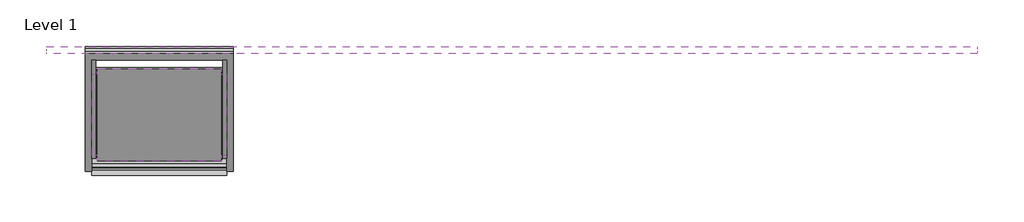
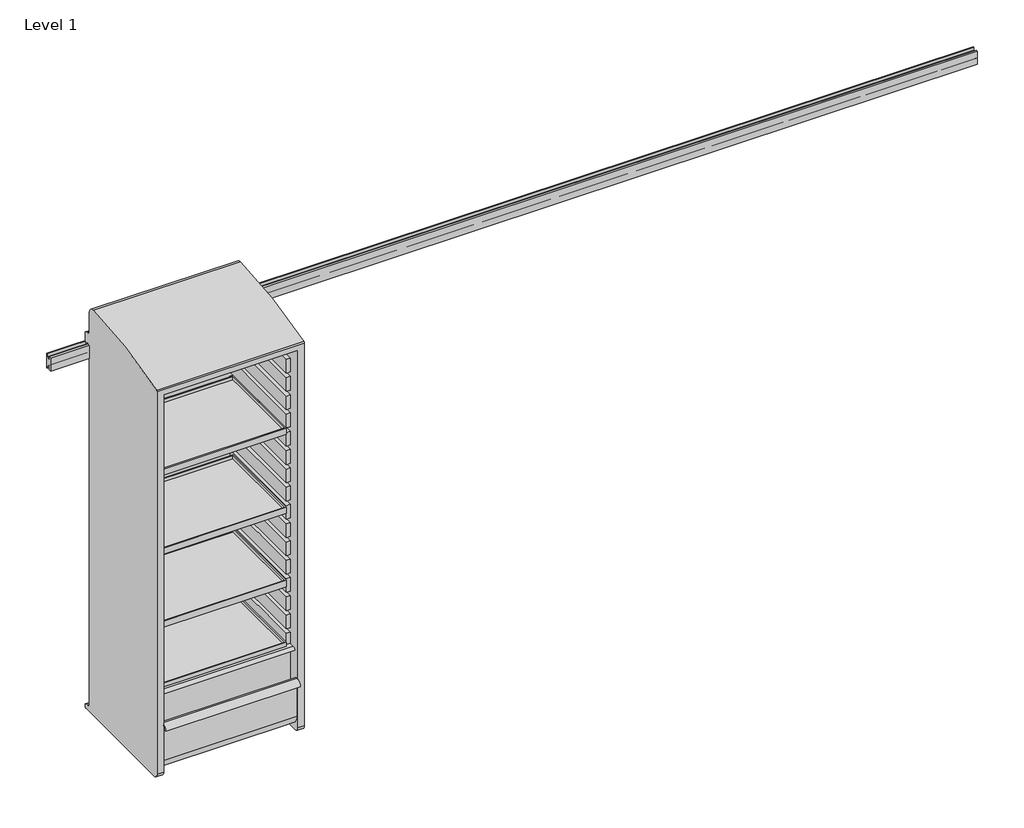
# One storey: 7 furniture elements.
"""IFC4 building model written with IfcOpenShell, lengths in millimetres."""

from ifc_helpers import new_model, si_unit, origin, place, context, project, spatial, transform, mapped, element, save
from components import furniture_11574fec, furniture_d3b70592, furniture_af5c8c58, furniture_ea2e2551, furniture_45599920, c_9_d4da432e, standard_144w_a9847ba4

model = new_model("IFC4")

# Units and contexts
model_context = context("Model", 3, world=origin())
ifc_project = project(units=[si_unit("LENGTHUNIT", "METRE", prefix="MILLI")], contexts=[model_context])

# Site, building, storey
site = spatial("IfcSite", under=ifc_project)
building = spatial("IfcBuilding", under=site)
storey = spatial("IfcBuildingStorey", under=building, Name="Level 1", Elevation=0.0)

# Furniture
placement = place(None, origin())
furniture_shape = furniture_11574fec(model_context)
element("IfcFurniture", 1, ObjectType="HermanMiller_CoStruc_CO203_CTrayShelf : 14\"D x 20\"W", at=placement, inside=storey, context=model_context, shape_type="MappedRepresentation", body=[
    mapped(furniture_shape, transform((442.9685649, -269.1460716, 0.0), x_axis=(1.0, 0.0, 0.0), y_axis=(0.0, 1.0, 0.0), z_axis=(0.0, 0.0, 1.0))),
])
furniture_2_shape = furniture_d3b70592(model_context)
element("IfcFurniture", 2, ObjectType="HermanMiller_CoStruc_CO203_CTrayShelf : 14\"D x 20\"W", at=placement, inside=storey, context=model_context, shape_type="MappedRepresentation", body=[
    mapped(furniture_2_shape, transform((442.9685649, -269.1460716, 0.0), x_axis=(1.0, 0.0, 0.0), y_axis=(0.0, 1.0, 0.0), z_axis=(0.0, 0.0, 1.0))),
])
furniture_3_shape = furniture_af5c8c58(model_context)
element("IfcFurniture", 3, ObjectType="HermanMiller_CoStruc_CO203_CTrayShelf : 14\"D x 20\"W", at=placement, inside=storey, context=model_context, shape_type="MappedRepresentation", body=[
    mapped(furniture_3_shape, transform((442.9685649, -269.1460716, 0.0), x_axis=(1.0, 0.0, 0.0), y_axis=(0.0, 1.0, 0.0), z_axis=(0.0, 0.0, 1.0))),
])
furniture_4_shape = furniture_ea2e2551(model_context)
element("IfcFurniture", 4, ObjectType="HermanMiller_CoStruc_CO203_CTrayShelf : 14\"D x 20\"W", at=placement, inside=storey, context=model_context, shape_type="MappedRepresentation", body=[
    mapped(furniture_4_shape, transform((442.9685649, -269.1460716, 0.0), x_axis=(1.0, 0.0, 0.0), y_axis=(0.0, 1.0, 0.0), z_axis=(0.0, 0.0, 1.0))),
])
furniture_5_shape = furniture_45599920(model_context)
element("IfcFurniture", 5, ObjectType="HermanMiller_CoStruc_CO561_LockerWithTambourDoor : 66\"H x 20\"D x 22\"W", at=placement, inside=storey, context=model_context, shape_type="MappedRepresentation", body=[
    mapped(furniture_5_shape, transform((442.9125, -246.0625, 0.0), x_axis=(1.0, 0.0, 0.0), y_axis=(0.0, 1.0, 0.0), z_axis=(0.0, 0.0, 1.0))),
])
c_9_shape = c_9_d4da432e(model_context)
element("IfcFurniture", 6, ObjectType="HermanMiller_CoStruc_CO207_Drawer : C - 9", at=placement, inside=storey, context=model_context, shape_type="MappedRepresentation", body=[
    mapped(c_9_shape, transform((442.9012166, -278.6456716, 0.0), x_axis=(1.0, 0.0, 0.0), y_axis=(0.0, 1.0, 0.0), z_axis=(0.0, 0.0, 1.0))),
])
standard_144w_shape = standard_144w_a9847ba4(model_context)
element("IfcFurniture", 7, ObjectType="HermanMiller_CoStruc_CO282_StandardRail : Standard 144W", at=placement, inside=storey, context=model_context, shape_type="MappedRepresentation", body=[
    mapped(standard_144w_shape, transform((1896.1205525, 0.0, 0.0), x_axis=(1.0, 0.0, 0.0), y_axis=(0.0, 1.0, 0.0), z_axis=(0.0, 0.0, 1.0))),
])

save(model, "model.ifc")
